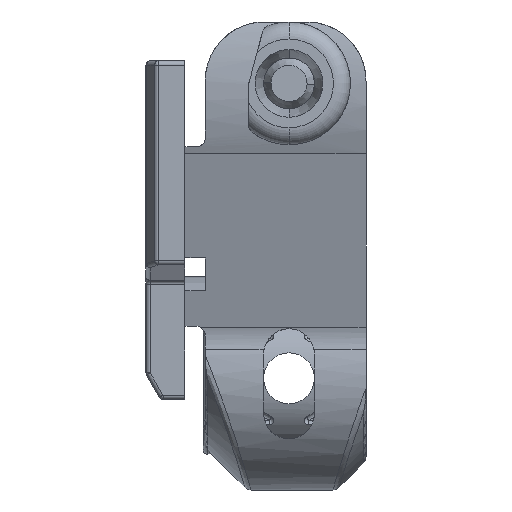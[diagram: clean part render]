
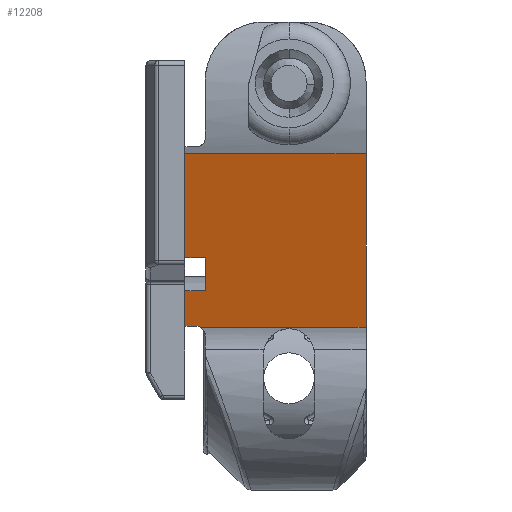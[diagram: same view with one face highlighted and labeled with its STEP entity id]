
A CAD part, left-side view. The second image highlights one B-rep face of the part: STEP entity #12208.
In plain terms, the highlighted planar face has unit normal (-0.962, 0, -0.274).
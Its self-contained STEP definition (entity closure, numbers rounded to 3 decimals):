
#244 = EDGE_CURVE ( 'NONE', #19048, #9530, #10116, .T. ) ;
#1186 = VECTOR ( 'NONE', #1208, 1000. ) ;
#1208 = DIRECTION ( 'NONE',  ( 0., 1., 0. ) ) ;
#1265 = CARTESIAN_POINT ( 'NONE',  ( -15.814, 0., -7.084 ) ) ;
#1287 = VERTEX_POINT ( 'NONE', #5129 ) ;
#1507 = LINE ( 'NONE', #14101, #11786 ) ;
#1643 = DIRECTION ( 'NONE',  ( 0.962, 0., 0.274 ) ) ;
#2512 = CARTESIAN_POINT ( 'NONE',  ( -14.618, 0., -11.29 ) ) ;
#2587 = EDGE_CURVE ( 'NONE', #10950, #14181, #1507, .T. ) ;
#2601 = DIRECTION ( 'NONE',  ( 0., 1., 0. ) ) ;
#2622 = CARTESIAN_POINT ( 'NONE',  ( -14.586, -500000., -11.401 ) ) ;
#2943 = CARTESIAN_POINT ( 'NONE',  ( -20.428, -21.4, 9.129 ) ) ;
#3220 = CARTESIAN_POINT ( 'NONE',  ( -15.814, -500000., -7.084 ) ) ;
#3473 = EDGE_LOOP ( 'NONE', ( #7688, #15938, #8793, #20937, #7920, #9513, #6990, #4508, #10636, #13528 ) ) ;
#3656 = EDGE_CURVE ( 'NONE', #13540, #9530, #5704, .T. ) ;
#3844 = CARTESIAN_POINT ( 'NONE',  ( -20.428, -21.4, 9.129 ) ) ;
#3951 = LINE ( 'NONE', #19705, #8860 ) ;
#4134 = LINE ( 'NONE', #13263, #19257 ) ;
#4332 = EDGE_CURVE ( 'NONE', #5705, #19048, #17310, .T. ) ;
#4485 = VECTOR ( 'NONE', #6399, 1000. ) ;
#4508 = ORIENTED_EDGE ( 'NONE', *, *, #20322, .T. ) ;
#4624 = EDGE_CURVE ( 'NONE', #14181, #13540, #3951, .T. ) ;
#4643 = EDGE_CURVE ( 'NONE', #6405, #18184, #5005, .T. ) ;
#4821 = DIRECTION ( 'NONE',  ( 0., -1., 0. ) ) ;
#5005 = LINE ( 'NONE', #19565, #4485 ) ;
#5129 = CARTESIAN_POINT ( 'NONE',  ( -15.814, -2.4, -7.084 ) ) ;
#5704 =( BOUNDED_CURVE ( )  B_SPLINE_CURVE ( 3, ( #16275, #9557, #17780, #9498 ),
 .UNSPECIFIED., .F., .F. ) 
 B_SPLINE_CURVE_WITH_KNOTS ( ( 4, 4 ),
 ( 3.142, 3.618 ),
 .UNSPECIFIED. ) 
 CURVE ( )  GEOMETRIC_REPRESENTATION_ITEM ( )  RATIONAL_B_SPLINE_CURVE ( ( 1., 0.981, 0.981, 1. ) ) 
 REPRESENTATION_ITEM ( '' )  );
#5705 = VERTEX_POINT ( 'NONE', #3844 ) ;
#6101 = LINE ( 'NONE', #10687, #15309 ) ;
#6399 = DIRECTION ( 'NONE',  ( 0.274, 0., -0.962 ) ) ;
#6405 = VERTEX_POINT ( 'NONE', #18003 ) ;
#6830 = EDGE_CURVE ( 'NONE', #1287, #10950, #6101, .T. ) ;
#6990 = ORIENTED_EDGE ( 'NONE', *, *, #18156, .F. ) ;
#7471 = CARTESIAN_POINT ( 'NONE',  ( -14.586, -1.858, -11.401 ) ) ;
#7493 = CARTESIAN_POINT ( 'NONE',  ( -20.428, -21.4, 9.129 ) ) ;
#7563 = VERTEX_POINT ( 'NONE', #17680 ) ;
#7688 = ORIENTED_EDGE ( 'NONE', *, *, #4624, .T. ) ;
#7920 = ORIENTED_EDGE ( 'NONE', *, *, #21038, .T. ) ;
#8299 = DIRECTION ( 'NONE',  ( 0., 1., 0. ) ) ;
#8700 = FACE_OUTER_BOUND ( 'NONE', #3473, .T. ) ;
#8793 = ORIENTED_EDGE ( 'NONE', *, *, #244, .F. ) ;
#8860 = VECTOR ( 'NONE', #4821, 1000. ) ;
#9498 = CARTESIAN_POINT ( 'NONE',  ( -14.586, -1.858, -11.401 ) ) ;
#9513 = ORIENTED_EDGE ( 'NONE', *, *, #4643, .T. ) ;
#9530 = VERTEX_POINT ( 'NONE', #7471 ) ;
#9557 = CARTESIAN_POINT ( 'NONE',  ( -14.618, -1.56, -11.29 ) ) ;
#10116 = LINE ( 'NONE', #2622, #12913 ) ;
#10636 = ORIENTED_EDGE ( 'NONE', *, *, #6830, .T. ) ;
#10687 = CARTESIAN_POINT ( 'NONE',  ( -15.814, -500000., -7.084 ) ) ;
#10950 = VERTEX_POINT ( 'NONE', #1265 ) ;
#11786 = VECTOR ( 'NONE', #15758, 1000. ) ;
#12145 = CARTESIAN_POINT ( 'NONE',  ( -14.618, -1.4, -11.29 ) ) ;
#12208 = ADVANCED_FACE ( 'NONE', ( #8700 ), #16267, .F. ) ;
#12680 = VECTOR ( 'NONE', #17298, 1000. ) ;
#12913 = VECTOR ( 'NONE', #16003, 1000. ) ;
#13263 = CARTESIAN_POINT ( 'NONE',  ( -16.919, -500000., -3.204 ) ) ;
#13327 = CARTESIAN_POINT ( 'NONE',  ( -16.919, 0., -3.204 ) ) ;
#13528 = ORIENTED_EDGE ( 'NONE', *, *, #2587, .T. ) ;
#13540 = VERTEX_POINT ( 'NONE', #12145 ) ;
#14101 = CARTESIAN_POINT ( 'NONE',  ( -15.814, 0., -7.084 ) ) ;
#14181 = VERTEX_POINT ( 'NONE', #2512 ) ;
#14472 = LINE ( 'NONE', #20073, #18322 ) ;
#15309 = VECTOR ( 'NONE', #2601, 1000. ) ;
#15411 = DIRECTION ( 'NONE',  ( 0.274, 0., -0.962 ) ) ;
#15758 = DIRECTION ( 'NONE',  ( 0.274, 0., -0.962 ) ) ;
#15903 = CARTESIAN_POINT ( 'NONE',  ( -14.586, -21.4, -11.401 ) ) ;
#15938 = ORIENTED_EDGE ( 'NONE', *, *, #3656, .T. ) ;
#16003 = DIRECTION ( 'NONE',  ( 0., 1., 0. ) ) ;
#16267 = PLANE ( 'NONE',  #18499 ) ;
#16275 = CARTESIAN_POINT ( 'NONE',  ( -14.618, -1.4, -11.29 ) ) ;
#17298 = DIRECTION ( 'NONE',  ( 0.274, 0., -0.962 ) ) ;
#17310 = LINE ( 'NONE', #7493, #12680 ) ;
#17680 = CARTESIAN_POINT ( 'NONE',  ( -16.919, -2.4, -3.204 ) ) ;
#17780 = CARTESIAN_POINT ( 'NONE',  ( -14.607, -1.716, -11.328 ) ) ;
#18003 = CARTESIAN_POINT ( 'NONE',  ( -20.428, 0., 9.129 ) ) ;
#18156 = EDGE_CURVE ( 'NONE', #7563, #18184, #4134, .T. ) ;
#18184 = VERTEX_POINT ( 'NONE', #13327 ) ;
#18322 = VECTOR ( 'NONE', #15411, 1000. ) ;
#18499 = AXIS2_PLACEMENT_3D ( 'NONE', #3220, #1643, #21194 ) ;
#19048 = VERTEX_POINT ( 'NONE', #15903 ) ;
#19257 = VECTOR ( 'NONE', #8299, 1000. ) ;
#19565 = CARTESIAN_POINT ( 'NONE',  ( -20.428, 0., 9.129 ) ) ;
#19705 = CARTESIAN_POINT ( 'NONE',  ( -14.618, -500000., -11.29 ) ) ;
#19913 = LINE ( 'NONE', #2943, #1186 ) ;
#20073 = CARTESIAN_POINT ( 'NONE',  ( -20.428, -2.4, 9.129 ) ) ;
#20322 = EDGE_CURVE ( 'NONE', #7563, #1287, #14472, .T. ) ;
#20937 = ORIENTED_EDGE ( 'NONE', *, *, #4332, .F. ) ;
#21038 = EDGE_CURVE ( 'NONE', #5705, #6405, #19913, .T. ) ;
#21194 = DIRECTION ( 'NONE',  ( 0.274, 0., -0.962 ) ) ;
